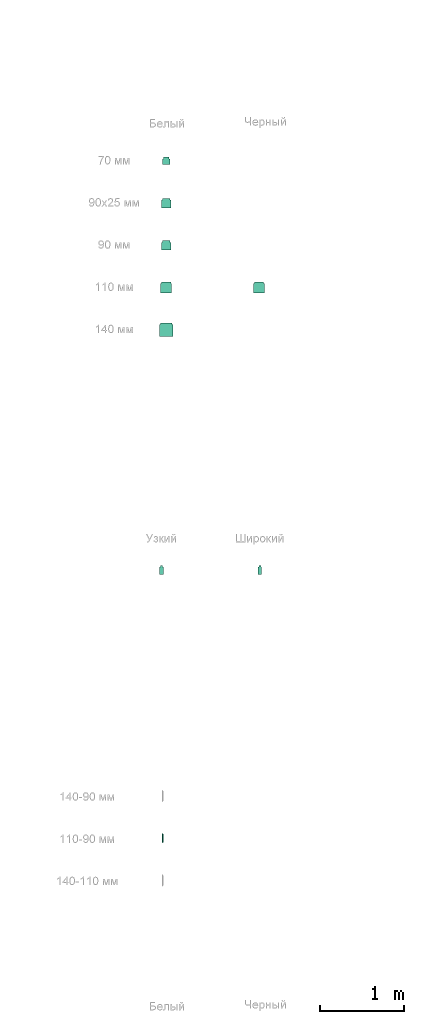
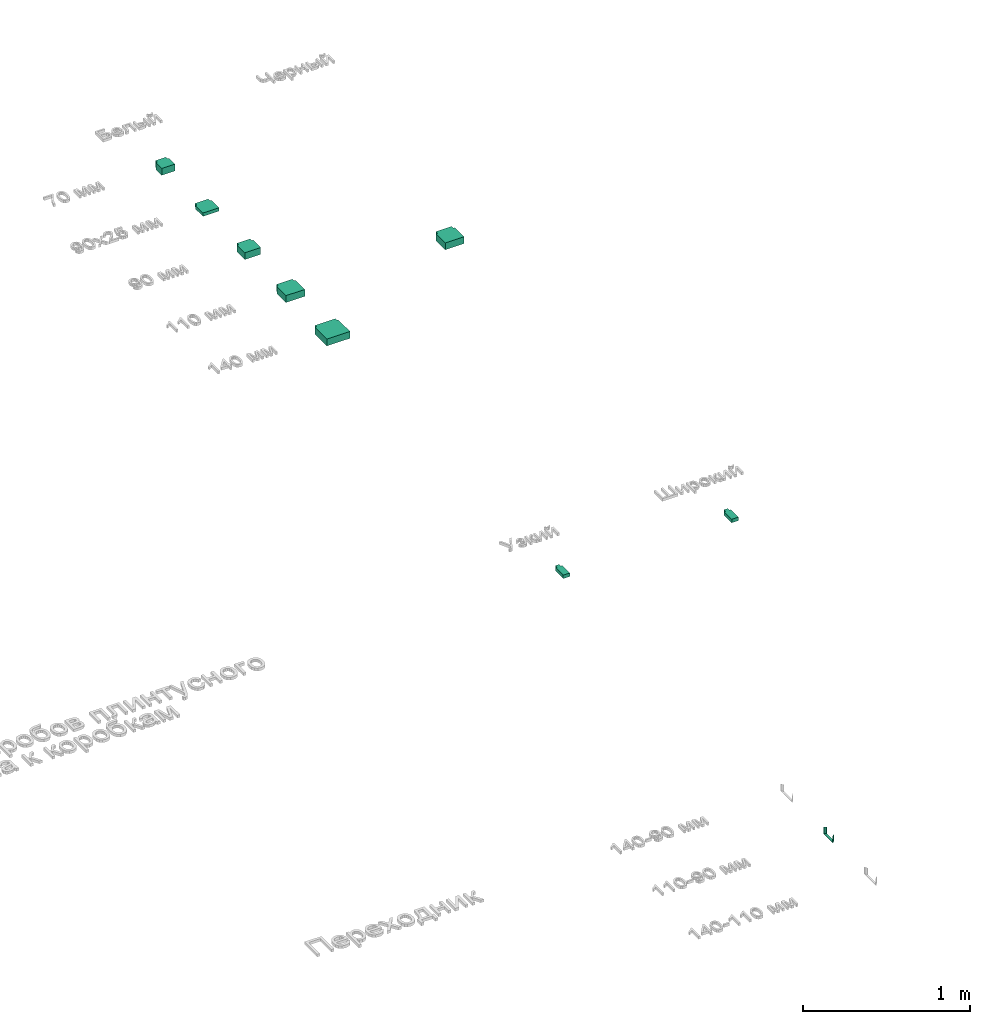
# One storey, part 17 of 87: 9 flow fittings.
"""IFC2X3 building model written with IfcOpenShell, lengths in millimetres."""

import ifcopenshell
import ifcopenshell.guid

model = None  # the IFC model being written
_history = None  # IfcOwnerHistory: only IFC2X3 demands one
_inside = {}  # id of a spatial element -> (the spatial element, [elements in it])
_under = {}  # id of a project, library or spatial element -> (it, [spatial elements below it])
_declared = {}  # id of a project -> (the project, [libraries it declares])
_typed = {}  # id of a type object -> (the type object, [elements of that type])
_made_of = {}  # id of a material, layer set ... -> (it, [elements and type objects made of it])


def new_model(schema):
    """Start an empty IFC model of exactly this schema.

    Asked for "IFC4X3", IfcOpenShell would pick the latest addendum, in which some entities
    have other attributes; the version numbers below select the first issue.
    IFC2X3 requires an IfcOwnerHistory on every rooted entity: one is made here for all.
    """
    global model, _history
    if schema == "IFC4X3":
        model = ifcopenshell.file(schema_version=(4, 3, 0, 0))
    else:
        model = ifcopenshell.file(schema=schema)
    _inside.clear()
    _under.clear()
    _declared.clear()
    _typed.clear()
    _made_of.clear()
    _history = None
    if model.schema == "IFC2X3":
        org = make("IfcOrganization", Name="unknown")
        user = make(
            "IfcPersonAndOrganization",
            ThePerson=make("IfcPerson", FamilyName="unknown"),
            TheOrganization=org,
        )
        app = make(
            "IfcApplication",
            ApplicationDeveloper=org,
            Version="unknown",
            ApplicationFullName="unknown",
            ApplicationIdentifier="unknown",
        )
        _history = make(
            "IfcOwnerHistory",
            OwningUser=user,
            OwningApplication=app,
            ChangeAction="ADDED",
            CreationDate=0,
        )
    return model


def make(cls, **values):
    """One entity of the class cls with the attributes given. An attribute that is None is left unset."""
    return model.create_entity(
        cls, **{name: value for name, value in values.items() if value is not None}
    )


def entity(cls, *values):
    """Any entity or typed value of the class cls, its attributes in the order of the schema. None: left unset."""
    e = model.create_entity(cls)
    for i, value in enumerate(values):
        if value is not None:
            e[i] = value
    return e


def rooted(cls, **values):
    """An entity with a GlobalId (a new one), such as an element, a storey or a relation."""
    return make(cls, GlobalId=ifcopenshell.guid.new(), OwnerHistory=_history, **values)


def si_unit(unit_type, name, prefix=None):
    """IfcSIUnit, for example si_unit("LENGTHUNIT", "METRE", prefix="MILLI")."""
    return make("IfcSIUnit", UnitType=unit_type, Prefix=prefix, Name=name)


def converted_unit(unit_type, name, factor, base, dimensions=None, offset=None):
    """IfcConversionBasedUnit, such as the inch: factor (a typed value) times the base unit."""
    return make(
        "IfcConversionBasedUnit"
        if offset is None
        else "IfcConversionBasedUnitWithOffset",
        ConversionOffset=offset,
        Dimensions=None
        if dimensions is None
        else entity("IfcDimensionalExponents", *dimensions),
        UnitType=unit_type,
        Name=name,
        ConversionFactor=make(
            "IfcMeasureWithUnit", ValueComponent=factor, UnitComponent=base
        ),
    )


def derived_unit(unit_type, elements):
    """IfcDerivedUnit: a product of units, each with its exponent."""
    return make(
        "IfcDerivedUnit",
        Elements=[
            make("IfcDerivedUnitElement", Unit=unit, Exponent=power)
            for unit, power in elements
        ],
        UnitType=unit_type,
    )


def assignment(units):
    """IfcUnitAssignment: the units of a project."""
    return None if units is None else make("IfcUnitAssignment", Units=units)


def point(xyz):
    """IfcCartesianPoint."""
    return None if xyz is None else make("IfcCartesianPoint", Coordinates=xyz)


def direction(xyz):
    """IfcDirection."""
    return None if xyz is None else make("IfcDirection", DirectionRatios=xyz)


def frame(location, z_axis=None, x_axis=None):
    """IfcAxis2Placement3D, a coordinate frame: its origin and axes. An axis left out is left unset."""
    return make(
        "IfcAxis2Placement3D",
        Location=point(location),
        Axis=direction(z_axis),
        RefDirection=direction(x_axis),
    )


def origin():
    """The frame at (0, 0, 0) with its axes left unset."""
    return frame((0.0, 0.0, 0.0))


def place(relative_to, where):
    """IfcLocalPlacement: puts the frame where relative to a parent placement (None: the world)."""
    return make(
        "IfcLocalPlacement", PlacementRelTo=relative_to, RelativePlacement=where
    )


def context(
    kind, dimensions, precision=None, world=None, true_north=None, identifier=None
):
    """IfcGeometricRepresentationContext, for example the 3D "Model" context."""
    return make(
        "IfcGeometricRepresentationContext",
        ContextIdentifier=identifier,
        ContextType=kind,
        CoordinateSpaceDimension=dimensions,
        Precision=precision,
        WorldCoordinateSystem=world,
        TrueNorth=true_north,
    )


def subcontext(parent, identifier, kind, view, scale=None):
    """IfcGeometricRepresentationSubContext, for example "Body" below "Model"."""
    return make(
        "IfcGeometricRepresentationSubContext",
        ContextIdentifier=identifier,
        ContextType=kind,
        ParentContext=parent,
        TargetScale=scale,
        TargetView=view,
    )


def project(units=None, contexts=None):
    """IfcProject with its units and contexts."""
    return rooted(
        "IfcProject",
        Name="project",
        RepresentationContexts=contexts,
        UnitsInContext=assignment(units),
    )


def spatial(cls, under=None, at=None, **own):
    """A site, building, storey or space (cls), placed at a placement, below another one or the project."""
    s = rooted(cls, ObjectPlacement=at, **own)
    if under is not None:
        _under.setdefault(under.id(), (under, []))[1].append(s)
    return s


def faces_of(points, faces, orient=None, outer=None):
    """IfcFace entities. A face is a list of loops; a loop is a list of indices into points, from 0.

    orient and outer hold one flag for each loop. By default every Orientation is true, the
    first loop of a face is its IfcFaceOuterBound and the others are IfcFaceBound.
    """
    made = []
    for i, loops in enumerate(faces):
        bounds = []
        for j, loop in enumerate(loops):
            is_outer = j == 0 if outer is None else outer[i][j]
            bounds.append(
                make(
                    "IfcFaceOuterBound" if is_outer else "IfcFaceBound",
                    Bound=make("IfcPolyLoop", Polygon=[points[k] for k in loop]),
                    Orientation=True if orient is None else orient[i][j],
                )
            )
        made.append(make("IfcFace", Bounds=bounds))
    return made


def faceted_brep(points, faces, orient=None, outer=None, voids=None):
    """IfcFacetedBrep: a solid bounded by flat faces; with voids (closed shells), ...WithVoids."""
    shared = [point(p) for p in points]
    hull = make("IfcClosedShell", CfsFaces=faces_of(shared, faces, orient, outer))
    if voids is None:
        return make("IfcFacetedBrep", Outer=hull)
    return make(
        "IfcFacetedBrepWithVoids",
        Outer=hull,
        Voids=[
            make(cls, CfsFaces=faces_of(shared, fs, o, b)) for cls, fs, o, b in voids
        ],
    )


def shape(context_of_items, identifier, shape_type, items):
    """IfcShapeRepresentation: the items that make up one representation, for example the "Body"."""
    return make(
        "IfcShapeRepresentation",
        ContextOfItems=context_of_items,
        RepresentationIdentifier=identifier,
        RepresentationType=shape_type,
        Items=items,
    )


def source(mapping_origin, context_of_items, identifier, shape_type, items):
    """IfcRepresentationMap: a shape defined once, which mapped items show again and again."""
    return make(
        "IfcRepresentationMap",
        MappingOrigin=mapping_origin,
        MappedRepresentation=shape(context_of_items, identifier, shape_type, items),
    )


def transform(
    local_origin,
    x_axis=None,
    y_axis=None,
    z_axis=None,
    scale=None,
    scale2=None,
    scale3=None,
    uniform=True,
):
    """IfcCartesianTransformationOperator3D, or its non-uniform kind. x_axis, y_axis, z_axis: its Axis1, 2, 3."""
    if uniform:
        return make(
            "IfcCartesianTransformationOperator3D",
            Axis1=direction(x_axis),
            Axis2=direction(y_axis),
            LocalOrigin=point(local_origin),
            Scale=scale,
            Axis3=direction(z_axis),
        )
    return make(
        "IfcCartesianTransformationOperator3DnonUniform",
        Axis1=direction(x_axis),
        Axis2=direction(y_axis),
        LocalOrigin=point(local_origin),
        Scale=scale,
        Axis3=direction(z_axis),
        Scale2=scale2,
        Scale3=scale3,
    )


def mapped(mapping_source, mapping_target):
    """IfcMappedItem: shows the shape of a source again, moved by a transform."""
    return make(
        "IfcMappedItem", MappingSource=mapping_source, MappingTarget=mapping_target
    )


def material(Name=None, Category=None):
    """IfcMaterial."""
    return make("IfcMaterial", Name=Name, Category=Category)


def made_of(thing, what):
    """Note that an element or type object is made of a material, layer set ...; save() writes the relation."""
    if what is not None:
        _made_of.setdefault(what.id(), (what, []))[1].append(thing)
    return thing


def type_object(cls, material=None, **own):
    """A type object (cls), such as IfcWallType, which elements share."""
    return made_of(rooted(cls, **own), material)


def type_shapes(of_type, sources):
    """Give a type object the sources (RepresentationMaps) that its elements show as mapped items."""
    of_type.RepresentationMaps = sources


def element(
    cls,
    number,
    at=None,
    inside=None,
    cuts=None,
    type_object=None,
    material=None,
    context=None,
    identifier="Body",
    shape_type=None,
    held_by="IfcProductDefinitionShape",
    body=None,
    shapes=None,
    **own,
):
    """One element of the class cls, such as IfcWall. Its Tag is "e" and its number.

    at: its placement. inside: the storey or other place that contains it. cuts: it is an
    opening in that element (IfcRelVoidsElement). A single representation is given by context,
    identifier, shape_type and body (its items); several are given by shapes. held_by: the class
    of the entity that holds the representations. save() writes the other relations.
    """
    e = rooted(cls, Tag="e%d" % number, ObjectPlacement=at, **own)
    if body is not None:
        shapes = [shape(context, identifier, shape_type, body)]
    if shapes is not None:
        e.Representation = make(held_by, Representations=shapes)
    if inside is not None:
        _inside.setdefault(inside.id(), (inside, []))[1].append(e)
    if cuts is not None:
        rooted(
            "IfcRelVoidsElement", RelatingBuildingElement=cuts, RelatedOpeningElement=e
        )
    if type_object is not None:
        _typed.setdefault(type_object.id(), (type_object, []))[1].append(e)
    return made_of(e, material)


def aggregate(whole, parts):
    """IfcRelAggregates: a whole, such as a stair, and the parts it consists of."""
    return rooted("IfcRelAggregates", RelatingObject=whole, RelatedObjects=parts)


def save(model, path):
    """Write the relations noted so far, then the file.

    IfcRelAggregates (storeys below a building ...), IfcRelContainedInSpatialStructure (elements
    in a storey), IfcRelDefinesByType, IfcRelAssociatesMaterial and IfcRelDeclares: one each for
    every whole, place, type object, material and project.
    """
    for whole, parts in _under.values():
        aggregate(whole, parts)
    for where, things in _inside.values():
        rooted(
            "IfcRelContainedInSpatialStructure",
            RelatedElements=things,
            RelatingStructure=where,
        )
    for kind, things in _typed.values():
        rooted("IfcRelDefinesByType", RelatedObjects=things, RelatingType=kind)
    for what, things in _made_of.values():
        rooted("IfcRelAssociatesMaterial", RelatedObjects=things, RelatingMaterial=what)
    for by, libraries in _declared.values():
        rooted("IfcRelDeclares", RelatingContext=by, RelatedDefinitions=libraries)
    model.write(path)


model = new_model("IFC2X3")

# Units and contexts
model_context = context("Model", 3, precision=0.01, world=origin(), true_north=direction((6.12303176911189e-17, 1.0)))
body_context = subcontext(model_context, "Body", "Model", "MODEL_VIEW")
ifc_project = project(units=[si_unit("LENGTHUNIT", "METRE", prefix="MILLI"), si_unit("AREAUNIT", "SQUARE_METRE"), si_unit("VOLUMEUNIT", "CUBIC_METRE"), converted_unit("PLANEANGLEUNIT", "DEGREE", entity("IfcRatioMeasure", 0.0174532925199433), si_unit("PLANEANGLEUNIT", "RADIAN"), dimensions=[0, 0, 0, 0, 0, 0, 0]), si_unit("MASSUNIT", "GRAM", prefix="KILO"), derived_unit("MASSDENSITYUNIT", [(si_unit("MASSUNIT", "GRAM", prefix="KILO"), 1), (si_unit("LENGTHUNIT", "METRE"), -3)]), si_unit("TIMEUNIT", "SECOND"), si_unit("FREQUENCYUNIT", "HERTZ"), si_unit("THERMODYNAMICTEMPERATUREUNIT", "DEGREE_CELSIUS"), derived_unit("THERMALTRANSMITTANCEUNIT", [(si_unit("MASSUNIT", "GRAM", prefix="KILO"), 1), (si_unit("THERMODYNAMICTEMPERATUREUNIT", "KELVIN"), -1), (si_unit("TIMEUNIT", "SECOND"), -3)]), derived_unit("VOLUMETRICFLOWRATEUNIT", [(si_unit("LENGTHUNIT", "METRE"), 3), (si_unit("TIMEUNIT", "SECOND"), -1)]), si_unit("ELECTRICCURRENTUNIT", "AMPERE"), si_unit("ELECTRICVOLTAGEUNIT", "VOLT"), si_unit("POWERUNIT", "WATT"), si_unit("FORCEUNIT", "NEWTON", prefix="KILO"), si_unit("ILLUMINANCEUNIT", "LUX"), si_unit("LUMINOUSFLUXUNIT", "LUMEN"), si_unit("LUMINOUSINTENSITYUNIT", "CANDELA"), derived_unit("USERDEFINED", [(si_unit("MASSUNIT", "GRAM", prefix="KILO"), -1), (si_unit("LENGTHUNIT", "METRE"), -2), (si_unit("TIMEUNIT", "SECOND"), 3), (si_unit("LUMINOUSFLUXUNIT", "LUMEN"), 1)]), derived_unit("LINEARVELOCITYUNIT", [(si_unit("LENGTHUNIT", "METRE"), 1), (si_unit("TIMEUNIT", "SECOND"), -1)]), si_unit("PRESSUREUNIT", "PASCAL"), derived_unit("USERDEFINED", [(si_unit("LENGTHUNIT", "METRE"), -2), (si_unit("MASSUNIT", "GRAM", prefix="KILO"), 1), (si_unit("TIMEUNIT", "SECOND"), -2)])], contexts=[model_context])

# Site, building, storey
site_placement = place(None, origin())
site = spatial("IfcSite", under=ifc_project, at=site_placement, Name="Default", CompositionType="ELEMENT")
building_placement = place(site_placement, origin())
building = spatial("IfcBuilding", under=site, at=building_placement, Name="Наименование здания", CompositionType="ELEMENT")
storey_placement = place(building_placement, origin())
storey = spatial("IfcBuildingStorey", under=building, at=storey_placement, Name="Этаж 01", CompositionType="ELEMENT", Elevation=0.0)

# Flow fittings
ifc_material_1 = material(Name="DKC_Пластик_Белый")
cable_carrier_fitting_type_1 = type_object("IfcCableCarrierFittingType", Name="Белый", PredefinedType="NOTDEFINED", material=ifc_material_1)
shared_shape_1 = source(origin(), body_context, "Body", "Brep", [
    faceted_brep([(-35.0, 35.0, 25.0), (-45.0, 35.0, 25.0), (-45.0, -35.0, 25.0), (45.0, -35.0, 25.0), (45.0, 35.0, 25.0), (35.0, 35.0, 25.0), (35.0, 55.0, 25.0), (-35.0, 55.0, 25.0), (-35.0, 35.0, -25.0), (-35.0, 55.0, -25.0), (35.0, 55.0, -25.0), (35.0, 35.0, -25.0), (45.0, 35.0, -25.0), (45.0, -35.0, -25.0), (-45.0, -35.0, -25.0), (-45.0, 35.0, -25.0)], [[[0, 1, 2, 3, 4, 5, 6, 7]], [[8, 9, 10, 11, 12, 13, 14, 15]], [[1, 0, 8, 15]], [[2, 1, 15, 14]], [[3, 2, 14, 13]], [[4, 3, 13, 12]], [[5, 4, 12, 11]], [[6, 5, 11, 10]], [[7, 6, 10, 9]], [[0, 7, 9, 8]]]),
    faceted_brep([(45.0, -32.4600000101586, -22.4600000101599), (45.0, 32.4600000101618, -22.4600000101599), (32.4600000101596, 32.4600000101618, -22.4600000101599), (32.4600000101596, 55.0, -22.4600000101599), (-32.4600000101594, 55.0, -22.4600000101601), (-32.4600000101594, 32.4600000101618, -22.4600000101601), (-45.0, 32.4600000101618, -22.4600000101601), (-45.0, -32.4600000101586, -22.4600000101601), (45.0, -35.0, -25.0), (-45.0, -35.0, -25.0), (-45.0, 35.0, -25.0), (-35.0, 35.0, -25.0), (-35.0, 55.0, -25.0), (35.0, 55.0, -25.0), (35.0, 35.0, -25.0), (45.0, 35.0, -25.0), (45.0, 35.0, 25.0), (45.0, 32.4600000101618, 25.0), (45.0, -32.4600000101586, 25.0), (45.0, -35.0, 25.0), (34.9600000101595, 35.0, 25.0), (35.0, 35.0, 25.0), (34.9600000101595, 55.0, 25.0), (-34.9600000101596, 55.0, 25.0), (-32.4600000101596, 55.0, 25.0), (32.4600000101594, 55.0, 25.0), (-35.0, 55.0, 25.0), (-34.9600000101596, 35.0, 25.0), (-45.0, 35.0, 25.0), (-45.0, -35.0, 25.0), (-45.0, -32.4600000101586, 25.0), (-45.0, 32.4600000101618, 25.0), (-32.4600000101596, 32.4600000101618, 25.0), (32.4600000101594, 32.4600000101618, 25.0)], [[[0, 1, 2, 3, 4, 5, 6, 7]], [[8, 9, 10, 11, 12, 13, 14, 15]], [[8, 15, 16, 17, 1, 0, 18, 19]], [[16, 15, 14, 20]], [[21, 14, 13, 22]], [[22, 13, 12, 23, 24, 4, 3, 25]], [[26, 12, 11, 27]], [[27, 11, 10, 28]], [[28, 10, 9, 29, 30, 7, 6, 31]], [[29, 9, 8, 19]], [[29, 19, 18, 30]], [[32, 31, 6, 5]], [[24, 32, 5, 4]], [[33, 25, 3, 2]], [[17, 33, 2, 1]], [[30, 18, 0, 7]], [[20, 22, 25, 33, 17, 16]], [[27, 28, 31, 32, 24, 23]]]),
])
type_shapes(cable_carrier_fitting_type_1, [shared_shape_1])
flow_fitting_1_placement = place(storey_placement, frame((13005.7301903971, -21636.7435087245, 0.0)))
element("IfcFlowFitting", 1, at=flow_fitting_1_placement, inside=storey, type_object=cable_carrier_fitting_type_1, material=ifc_material_1, Name="КНС_Тройник_ILF_DKC:Белый", ObjectType="Белый", context=body_context, shape_type="MappedRepresentation", body=[
    mapped(shared_shape_1, transform((0.0, 0.0, 0.0), scale=1.0)),
])
cable_carrier_fitting_type_2 = type_object("IfcCableCarrierFittingType", Name="Отвод узкий к коробкам", PredefinedType="NOTDEFINED", material=ifc_material_1)
shared_shape_2 = source(origin(), body_context, "Body", "Brep", [
    faceted_brep([(-12.4999999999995, 45.0, 12.5), (-22.4999999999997, 45.0, 12.5), (-22.4999999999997, -45.0, 12.5), (22.5, -45.0, 12.5), (22.5, 45.0, 12.5), (12.4999999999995, 45.0, 12.5), (12.4999999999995, 65.0, 12.5), (-12.4999999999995, 65.0, 12.5), (-12.4999999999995, 45.0, -12.5), (-12.4999999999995, 65.0, -12.5), (12.4999999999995, 65.0, -12.5), (12.4999999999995, 45.0, -12.5), (22.5, 45.0, -12.5), (22.5, -45.0, -12.5), (-22.4999999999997, -45.0, -12.5), (-22.4999999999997, 45.0, -12.5)], [[[0, 1, 2, 3, 4, 5, 6, 7]], [[8, 9, 10, 11, 12, 13, 14, 15]], [[1, 0, 8, 15]], [[2, 1, 15, 14]], [[3, 2, 14, 13]], [[4, 3, 13, 12]], [[5, 4, 12, 11]], [[6, 5, 11, 10]], [[7, 6, 10, 9]], [[0, 7, 9, 8]]]),
    faceted_brep([(22.5000000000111, -42.4999999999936, -10.0), (22.5000000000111, 42.5000000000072, -10.0), (10.0, 42.5000000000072, -10.0), (10.0, 65.0, -10.0), (-10.0, 65.0, -10.0), (-10.0, 42.500000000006, -10.0), (-22.4999999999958, 42.500000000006, -10.0), (-22.4999999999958, -42.4999999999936, -10.0), (22.5000000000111, -45.0, -12.4999999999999), (-22.4999999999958, -45.0, -12.5000000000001), (-22.4999999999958, 45.0, -12.5000000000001), (-12.4999999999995, 45.0, -12.5), (-12.4999999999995, 65.0, -12.5), (12.4999999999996, 65.0, -12.5), (12.4999999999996, 45.0, -12.5), (22.5000000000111, 45.0, -12.4999999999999), (22.5000000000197, 45.0, 12.5000000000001), (22.5000000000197, 42.5000000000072, 12.5000000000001), (22.5000000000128, -42.4999999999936, 12.5000000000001), (22.5000000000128, -45.0, 12.5000000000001), (12.4999999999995, 45.0, 12.5), (12.5000000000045, 65.0, 12.5), (-12.4999999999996, 65.0, 12.5), (-10.0, 65.0, 12.5), (10.0, 65.0, 12.5), (-12.4999999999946, 45.0, 12.5), (-22.4999999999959, 45.0, 12.4999999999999), (-22.5000000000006, -45.0, 12.4999999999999), (-22.5000000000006, -42.4999999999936, 12.4999999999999), (-22.4999999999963, 42.500000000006, 12.4999999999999), (-10.0, 42.500000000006, 12.5), (10.0, 42.5000000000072, 12.5)], [[[0, 1, 2, 3, 4, 5, 6, 7]], [[8, 9, 10, 11, 12, 13, 14, 15]], [[8, 15, 16, 17, 1, 0, 18, 19]], [[16, 15, 14, 20]], [[20, 14, 13, 21]], [[21, 13, 12, 22, 23, 4, 3, 24]], [[22, 12, 11, 25]], [[25, 11, 10, 26]], [[26, 10, 9, 27, 28, 7, 6, 29]], [[27, 9, 8, 19]], [[27, 19, 18, 28]], [[30, 29, 6, 5]], [[23, 30, 5, 4]], [[31, 24, 3, 2]], [[17, 31, 2, 1]], [[28, 18, 0, 7]], [[20, 21, 24, 31, 17, 16]], [[25, 26, 29, 30, 23, 22]]]),
])
type_shapes(cable_carrier_fitting_type_2, [shared_shape_2])
flow_fitting_2_placement = place(storey_placement, frame((12951.119028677, -26484.2361119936, 0.0)))
element("IfcFlowFitting", 2, at=flow_fitting_2_placement, inside=storey, type_object=cable_carrier_fitting_type_2, material=ifc_material_1, Name="КНС_ОтводОтКоробовПлинтусногоТипаККоробкам_ILF_DKC:Отвод узкий к коробкам", ObjectType="Отвод узкий к коробкам", context=body_context, shape_type="MappedRepresentation", body=[
    mapped(shared_shape_2, transform((0.0, 0.0, 0.0), scale=1.0)),
])
cable_carrier_fitting_type_3 = type_object("IfcCableCarrierFittingType", Name="Отвод широкий к коробкам", PredefinedType="NOTDEFINED", material=ifc_material_1)
shared_shape_3 = source(origin(), body_context, "Body", "Brep", [
    faceted_brep([(-12.4999999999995, 45.0, 12.5), (-22.4999999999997, 45.0, 12.5), (-22.4999999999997, -45.0, 12.5), (22.5, -45.0, 12.5), (22.5, 45.0, 12.5), (12.4999999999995, 45.0, 12.5), (12.4999999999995, 65.0, 12.5), (-12.4999999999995, 65.0, 12.5), (-12.4999999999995, 45.0, -12.5), (-12.4999999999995, 65.0, -12.5), (12.4999999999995, 65.0, -12.5), (12.4999999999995, 45.0, -12.5), (22.5, 45.0, -12.5), (22.5, -45.0, -12.5), (-22.4999999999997, -45.0, -12.5), (-22.4999999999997, 45.0, -12.5)], [[[0, 1, 2, 3, 4, 5, 6, 7]], [[8, 9, 10, 11, 12, 13, 14, 15]], [[1, 0, 8, 15]], [[2, 1, 15, 14]], [[3, 2, 14, 13]], [[4, 3, 13, 12]], [[5, 4, 12, 11]], [[6, 5, 11, 10]], [[7, 6, 10, 9]], [[0, 7, 9, 8]]]),
    faceted_brep([(22.5000000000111, -42.4999999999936, -10.0), (22.5000000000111, 42.5000000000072, -10.0), (10.0, 42.5000000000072, -10.0), (10.0, 65.0, -10.0), (-10.0, 65.0, -10.0), (-10.0, 42.500000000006, -10.0), (-22.4999999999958, 42.500000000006, -10.0), (-22.4999999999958, -42.4999999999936, -10.0), (22.5000000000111, -45.0, -12.4999999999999), (-22.4999999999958, -45.0, -12.5000000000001), (-22.4999999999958, 45.0, -12.5000000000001), (-12.4999999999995, 45.0, -12.5), (-12.4999999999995, 65.0, -12.5), (12.4999999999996, 65.0, -12.5), (12.4999999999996, 45.0, -12.5), (22.5000000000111, 45.0, -12.4999999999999), (22.5000000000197, 45.0, 12.5000000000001), (22.5000000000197, 42.5000000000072, 12.5000000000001), (22.5000000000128, -42.4999999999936, 12.5000000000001), (22.5000000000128, -45.0, 12.5000000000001), (12.4999999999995, 45.0, 12.5), (12.5000000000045, 65.0, 12.5), (-12.4999999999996, 65.0, 12.5), (-10.0, 65.0, 12.5), (10.0, 65.0, 12.5), (-12.4999999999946, 45.0, 12.5), (-22.4999999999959, 45.0, 12.4999999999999), (-22.5000000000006, -45.0, 12.4999999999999), (-22.5000000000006, -42.4999999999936, 12.4999999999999), (-22.4999999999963, 42.500000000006, 12.4999999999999), (-10.0, 42.500000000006, 12.5), (10.0, 42.5000000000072, 12.5)], [[[0, 1, 2, 3, 4, 5, 6, 7]], [[8, 9, 10, 11, 12, 13, 14, 15]], [[8, 15, 16, 17, 1, 0, 18, 19]], [[16, 15, 14, 20]], [[20, 14, 13, 21]], [[21, 13, 12, 22, 23, 4, 3, 24]], [[22, 12, 11, 25]], [[25, 11, 10, 26]], [[26, 10, 9, 27, 28, 7, 6, 29]], [[27, 9, 8, 19]], [[27, 19, 18, 28]], [[30, 29, 6, 5]], [[23, 30, 5, 4]], [[31, 24, 3, 2]], [[17, 31, 2, 1]], [[28, 18, 0, 7]], [[20, 21, 24, 31, 17, 16]], [[25, 26, 29, 30, 23, 22]]]),
])
type_shapes(cable_carrier_fitting_type_3, [shared_shape_3])
flow_fitting_3_placement = place(storey_placement, frame((14114.7629482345, -26484.2361119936, 0.0)))
element("IfcFlowFitting", 3, at=flow_fitting_3_placement, inside=storey, type_object=cable_carrier_fitting_type_3, material=ifc_material_1, Name="КНС_ОтводОтКоробовПлинтусногоТипаККоробкам_ILF_DKC:Отвод широкий к коробкам", ObjectType="Отвод широкий к коробкам", context=body_context, shape_type="MappedRepresentation", body=[
    mapped(shared_shape_3, transform((0.0, 0.0, 0.0), scale=1.0)),
])
ifc_material_2 = material(Name="DKC_Пластик_Серо-черный")
cable_carrier_fitting_type_4 = type_object("IfcCableCarrierFittingType", Name="Черный", PredefinedType="NOTDEFINED", material=ifc_material_2)
shared_shape_4 = source(origin(), body_context, "Body", "Brep", [
    faceted_brep([(-55.0, 55.0, 25.0), (-65.0, 55.0, 25.0), (-65.0, -55.0, 25.0), (65.0, -55.0, 25.0), (65.0, 55.0, 25.0), (55.0, 55.0, 25.0), (55.0, 75.0, 25.0), (-55.0, 75.0, 25.0), (-55.0, 55.0, -25.0), (-55.0, 75.0, -25.0), (55.0, 75.0, -25.0), (55.0, 55.0, -25.0), (65.0, 55.0, -25.0), (65.0, -55.0, -25.0), (-65.0, -55.0, -25.0), (-65.0, 55.0, -25.0)], [[[0, 1, 2, 3, 4, 5, 6, 7]], [[8, 9, 10, 11, 12, 13, 14, 15]], [[1, 0, 8, 15]], [[2, 1, 15, 14]], [[3, 2, 14, 13]], [[4, 3, 13, 12]], [[5, 4, 12, 11]], [[6, 5, 11, 10]], [[7, 6, 10, 9]], [[0, 7, 9, 8]]]),
    faceted_brep([(65.0, -52.4600000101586, -22.4600000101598), (65.0, 52.4600000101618, -22.4600000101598), (52.4600000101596, 52.4600000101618, -22.4600000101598), (52.4600000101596, 75.0, -22.4600000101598), (-52.4600000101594, 75.0, -22.4600000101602), (-52.4600000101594, 52.4600000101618, -22.4600000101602), (-65.0, 52.4600000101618, -22.4600000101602), (-65.0, -52.4600000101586, -22.4600000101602), (65.0, -55.0, -25.0), (-65.0, -55.0, -25.0), (-65.0, 55.0, -25.0), (-55.0, 55.0, -25.0), (-55.0, 75.0, -25.0), (55.0, 75.0, -25.0), (55.0, 55.0, -25.0), (65.0, 55.0, -25.0), (65.0, 55.0, 25.0), (65.0, 52.4600000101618, 25.0), (65.0, -52.4600000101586, 25.0), (65.0, -55.0, 25.0), (54.9600000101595, 55.0, 25.0), (55.0, 55.0, 25.0), (54.9600000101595, 75.0, 25.0), (-54.9600000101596, 75.0, 25.0), (-52.4600000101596, 75.0, 25.0), (52.4600000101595, 75.0, 25.0), (-55.0, 75.0, 25.0), (-54.9600000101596, 55.0, 25.0), (-65.0, 55.0, 25.0), (-65.0, -55.0, 25.0), (-65.0, -52.4600000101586, 25.0), (-65.0, 52.4600000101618, 25.0), (-52.4600000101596, 52.4600000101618, 25.0), (52.4600000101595, 52.4600000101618, 25.0)], [[[0, 1, 2, 3, 4, 5, 6, 7]], [[8, 9, 10, 11, 12, 13, 14, 15]], [[8, 15, 16, 17, 1, 0, 18, 19]], [[16, 15, 14, 20]], [[21, 14, 13, 22]], [[22, 13, 12, 23, 24, 4, 3, 25]], [[26, 12, 11, 27]], [[27, 11, 10, 28]], [[28, 10, 9, 29, 30, 7, 6, 31]], [[29, 9, 8, 19]], [[29, 19, 18, 30]], [[32, 31, 6, 5]], [[24, 32, 5, 4]], [[33, 25, 3, 2]], [[17, 33, 2, 1]], [[30, 18, 0, 7]], [[20, 22, 25, 33, 17, 16]], [[27, 28, 31, 32, 24, 23]]]),
])
type_shapes(cable_carrier_fitting_type_4, [shared_shape_4])
flow_fitting_4_placement = place(storey_placement, frame((14105.7301903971, -23136.7435087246, 0.0)))
element("IfcFlowFitting", 4, at=flow_fitting_4_placement, inside=storey, type_object=cable_carrier_fitting_type_4, material=ifc_material_2, Name="КНС_Тройник_ILF_DKC:Черный", ObjectType="Черный", context=body_context, shape_type="MappedRepresentation", body=[
    mapped(shared_shape_4, transform((0.0, 0.0, 0.0), scale=1.0)),
])
cable_carrier_fitting_type_5 = type_object("IfcCableCarrierFittingType", Name="Белый", PredefinedType="NOTDEFINED", material=ifc_material_1)
shared_shape_5 = source(origin(), body_context, "Body", "Brep", [
    faceted_brep([(-45.0, 45.0, 12.5), (-55.0, 45.0, 12.5), (-55.0, -45.0, 12.5), (55.0, -45.0, 12.5), (55.0, 45.0, 12.5), (45.0, 45.0, 12.5), (45.0, 65.0, 12.5), (-45.0, 65.0, 12.5), (-45.0, 45.0, -12.5), (-45.0, 65.0, -12.5), (45.0, 65.0, -12.5), (45.0, 45.0, -12.5), (55.0, 45.0, -12.5), (55.0, -45.0, -12.5), (-55.0, -45.0, -12.5), (-55.0, 45.0, -12.5)], [[[0, 1, 2, 3, 4, 5, 6, 7]], [[8, 9, 10, 11, 12, 13, 14, 15]], [[1, 0, 8, 15]], [[2, 1, 15, 14]], [[3, 2, 14, 13]], [[4, 3, 13, 12]], [[5, 4, 12, 11]], [[6, 5, 11, 10]], [[7, 6, 10, 9]], [[0, 7, 9, 8]]]),
    faceted_brep([(55.0, -42.4600000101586, -9.96000001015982), (55.0, 42.4600000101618, -9.96000001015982), (42.4600000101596, 42.4600000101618, -9.96000001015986), (42.4600000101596, 65.0, -9.96000001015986), (-42.4600000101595, 65.0, -9.96000001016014), (-42.4600000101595, 42.4600000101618, -9.96000001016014), (-55.0, 42.4600000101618, -9.96000001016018), (-55.0, -42.4600000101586, -9.96000001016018), (55.0, -45.0, -12.4999999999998), (-55.0, -45.0, -12.5000000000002), (-55.0, 45.0, -12.5000000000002), (-45.0, 45.0, -12.5000000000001), (-45.0, 65.0, -12.5000000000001), (45.0, 65.0, -12.4999999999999), (45.0, 45.0, -12.4999999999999), (55.0, 45.0, -12.4999999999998), (55.0, 45.0, 12.5000000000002), (55.0, 42.4600000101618, 12.5000000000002), (55.0, -42.4600000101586, 12.5000000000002), (55.0, -45.0, 12.5000000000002), (44.9600000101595, 45.0, 12.5000000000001), (45.0, 45.0, 12.5000000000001), (44.9600000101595, 65.0, 12.5000000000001), (-44.9600000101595, 65.0, 12.4999999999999), (-42.4600000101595, 65.0, 12.4999999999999), (42.4600000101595, 65.0, 12.5000000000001), (-45.0, 65.0, 12.4999999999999), (-44.9600000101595, 45.0, 12.4999999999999), (-55.0, 45.0, 12.4999999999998), (-55.0, -45.0, 12.4999999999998), (-55.0, -42.4600000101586, 12.4999999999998), (-55.0, 42.4600000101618, 12.4999999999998), (-42.4600000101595, 42.4600000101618, 12.4999999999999), (42.4600000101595, 42.4600000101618, 12.5000000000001)], [[[0, 1, 2, 3, 4, 5, 6, 7]], [[8, 9, 10, 11, 12, 13, 14, 15]], [[8, 15, 16, 17, 1, 0, 18, 19]], [[16, 15, 14, 20]], [[21, 14, 13, 22]], [[22, 13, 12, 23, 24, 4, 3, 25]], [[26, 12, 11, 27]], [[27, 11, 10, 28]], [[28, 10, 9, 29, 30, 7, 6, 31]], [[29, 9, 8, 19]], [[29, 19, 18, 30]], [[32, 31, 6, 5]], [[24, 32, 5, 4]], [[33, 25, 3, 2]], [[17, 33, 2, 1]], [[30, 18, 0, 7]], [[20, 22, 25, 33, 17, 16]], [[27, 28, 31, 32, 24, 23]]]),
])
type_shapes(cable_carrier_fitting_type_5, [shared_shape_5])
flow_fitting_5_placement = place(storey_placement, frame((13005.7301903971, -22136.7435087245, 0.0)))
element("IfcFlowFitting", 5, at=flow_fitting_5_placement, inside=storey, type_object=cable_carrier_fitting_type_5, material=ifc_material_1, Name="КНС_Тройник_ILF_DKC:Белый", ObjectType="Белый", context=body_context, shape_type="MappedRepresentation", body=[
    mapped(shared_shape_5, transform((0.0, 0.0, 0.0), scale=1.0)),
])
cable_carrier_fitting_type_6 = type_object("IfcCableCarrierFittingType", Name="Белый", PredefinedType="NOTDEFINED", material=ifc_material_1)
shared_shape_6 = source(origin(), body_context, "Body", "Brep", [
    faceted_brep([(-45.0, 45.0, 25.0), (-55.0, 45.0, 25.0), (-55.0, -45.0, 25.0), (55.0, -45.0, 25.0), (55.0, 45.0, 25.0), (45.0, 45.0, 25.0), (45.0, 65.0, 25.0), (-45.0, 65.0, 25.0), (-45.0, 45.0, -25.0), (-45.0, 65.0, -25.0), (45.0, 65.0, -25.0), (45.0, 45.0, -25.0), (55.0, 45.0, -25.0), (55.0, -45.0, -25.0), (-55.0, -45.0, -25.0), (-55.0, 45.0, -25.0)], [[[0, 1, 2, 3, 4, 5, 6, 7]], [[8, 9, 10, 11, 12, 13, 14, 15]], [[1, 0, 8, 15]], [[2, 1, 15, 14]], [[3, 2, 14, 13]], [[4, 3, 13, 12]], [[5, 4, 12, 11]], [[6, 5, 11, 10]], [[7, 6, 10, 9]], [[0, 7, 9, 8]]]),
    faceted_brep([(55.0, -42.4600000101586, -22.4600000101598), (55.0, 42.4600000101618, -22.4600000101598), (42.4600000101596, 42.4600000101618, -22.4600000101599), (42.4600000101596, 65.0, -22.4600000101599), (-42.4600000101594, 65.0, -22.4600000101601), (-42.4600000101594, 42.4600000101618, -22.4600000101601), (-55.0, 42.4600000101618, -22.4600000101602), (-55.0, -42.4600000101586, -22.4600000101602), (55.0, -45.0, -25.0), (-55.0, -45.0, -25.0), (-55.0, 45.0, -25.0), (-45.0, 45.0, -25.0), (-45.0, 65.0, -25.0), (45.0, 65.0, -25.0), (45.0, 45.0, -25.0), (55.0, 45.0, -25.0), (55.0, 45.0, 25.0), (55.0, 42.4600000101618, 25.0), (55.0, -42.4600000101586, 25.0), (55.0, -45.0, 25.0), (44.9600000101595, 45.0, 25.0), (45.0, 45.0, 25.0), (44.9600000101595, 65.0, 25.0), (-44.9600000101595, 65.0, 25.0), (-42.4600000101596, 65.0, 25.0), (42.4600000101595, 65.0, 25.0), (-45.0, 65.0, 25.0), (-44.9600000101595, 45.0, 25.0), (-55.0, 45.0, 25.0), (-55.0, -45.0, 25.0), (-55.0, -42.4600000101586, 25.0), (-55.0, 42.4600000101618, 25.0), (-42.4600000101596, 42.4600000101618, 25.0), (42.4600000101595, 42.4600000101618, 25.0)], [[[0, 1, 2, 3, 4, 5, 6, 7]], [[8, 9, 10, 11, 12, 13, 14, 15]], [[8, 15, 16, 17, 1, 0, 18, 19]], [[16, 15, 14, 20]], [[21, 14, 13, 22]], [[22, 13, 12, 23, 24, 4, 3, 25]], [[26, 12, 11, 27]], [[27, 11, 10, 28]], [[28, 10, 9, 29, 30, 7, 6, 31]], [[29, 9, 8, 19]], [[29, 19, 18, 30]], [[32, 31, 6, 5]], [[24, 32, 5, 4]], [[33, 25, 3, 2]], [[17, 33, 2, 1]], [[30, 18, 0, 7]], [[20, 22, 25, 33, 17, 16]], [[27, 28, 31, 32, 24, 23]]]),
])
type_shapes(cable_carrier_fitting_type_6, [shared_shape_6])
flow_fitting_6_placement = place(storey_placement, frame((13005.7301903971, -22636.7435087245, 0.0)))
element("IfcFlowFitting", 6, at=flow_fitting_6_placement, inside=storey, type_object=cable_carrier_fitting_type_6, material=ifc_material_1, Name="КНС_Тройник_ILF_DKC:Белый", ObjectType="Белый", context=body_context, shape_type="MappedRepresentation", body=[
    mapped(shared_shape_6, transform((0.0, 0.0, 0.0), scale=1.0)),
])
cable_carrier_fitting_type_7 = type_object("IfcCableCarrierFittingType", Name="Белый", PredefinedType="NOTDEFINED", material=ifc_material_1)
shared_shape_7 = source(origin(), body_context, "Body", "Brep", [
    faceted_brep([(-55.0, 55.0, 25.0), (-65.0, 55.0, 25.0), (-65.0, -55.0, 25.0), (65.0, -55.0, 25.0), (65.0, 55.0, 25.0), (55.0, 55.0, 25.0), (55.0, 75.0, 25.0), (-55.0, 75.0, 25.0), (-55.0, 55.0, -25.0), (-55.0, 75.0, -25.0), (55.0, 75.0, -25.0), (55.0, 55.0, -25.0), (65.0, 55.0, -25.0), (65.0, -55.0, -25.0), (-65.0, -55.0, -25.0), (-65.0, 55.0, -25.0)], [[[0, 1, 2, 3, 4, 5, 6, 7]], [[8, 9, 10, 11, 12, 13, 14, 15]], [[1, 0, 8, 15]], [[2, 1, 15, 14]], [[3, 2, 14, 13]], [[4, 3, 13, 12]], [[5, 4, 12, 11]], [[6, 5, 11, 10]], [[7, 6, 10, 9]], [[0, 7, 9, 8]]]),
    faceted_brep([(65.0, -52.4600000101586, -22.4600000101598), (65.0, 52.4600000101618, -22.4600000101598), (52.4600000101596, 52.4600000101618, -22.4600000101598), (52.4600000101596, 75.0, -22.4600000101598), (-52.4600000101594, 75.0, -22.4600000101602), (-52.4600000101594, 52.4600000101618, -22.4600000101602), (-65.0, 52.4600000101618, -22.4600000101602), (-65.0, -52.4600000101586, -22.4600000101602), (65.0, -55.0, -25.0), (-65.0, -55.0, -25.0), (-65.0, 55.0, -25.0), (-55.0, 55.0, -25.0), (-55.0, 75.0, -25.0), (55.0, 75.0, -25.0), (55.0, 55.0, -25.0), (65.0, 55.0, -25.0), (65.0, 55.0, 25.0), (65.0, 52.4600000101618, 25.0), (65.0, -52.4600000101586, 25.0), (65.0, -55.0, 25.0), (54.9600000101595, 55.0, 25.0), (55.0, 55.0, 25.0), (54.9600000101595, 75.0, 25.0), (-54.9600000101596, 75.0, 25.0), (-52.4600000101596, 75.0, 25.0), (52.4600000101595, 75.0, 25.0), (-55.0, 75.0, 25.0), (-54.9600000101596, 55.0, 25.0), (-65.0, 55.0, 25.0), (-65.0, -55.0, 25.0), (-65.0, -52.4600000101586, 25.0), (-65.0, 52.4600000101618, 25.0), (-52.4600000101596, 52.4600000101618, 25.0), (52.4600000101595, 52.4600000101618, 25.0)], [[[0, 1, 2, 3, 4, 5, 6, 7]], [[8, 9, 10, 11, 12, 13, 14, 15]], [[8, 15, 16, 17, 1, 0, 18, 19]], [[16, 15, 14, 20]], [[21, 14, 13, 22]], [[22, 13, 12, 23, 24, 4, 3, 25]], [[26, 12, 11, 27]], [[27, 11, 10, 28]], [[28, 10, 9, 29, 30, 7, 6, 31]], [[29, 9, 8, 19]], [[29, 19, 18, 30]], [[32, 31, 6, 5]], [[24, 32, 5, 4]], [[33, 25, 3, 2]], [[17, 33, 2, 1]], [[30, 18, 0, 7]], [[20, 22, 25, 33, 17, 16]], [[27, 28, 31, 32, 24, 23]]]),
])
type_shapes(cable_carrier_fitting_type_7, [shared_shape_7])
flow_fitting_7_placement = place(storey_placement, frame((13005.7301903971, -23136.7435087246, 0.0)))
element("IfcFlowFitting", 7, at=flow_fitting_7_placement, inside=storey, type_object=cable_carrier_fitting_type_7, material=ifc_material_1, Name="КНС_Тройник_ILF_DKC:Белый", ObjectType="Белый", context=body_context, shape_type="MappedRepresentation", body=[
    mapped(shared_shape_7, transform((0.0, 0.0, 0.0), scale=1.0)),
])
cable_carrier_fitting_type_8 = type_object("IfcCableCarrierFittingType", Name="Белый", PredefinedType="NOTDEFINED", material=ifc_material_1)
shared_shape_8 = source(origin(), body_context, "Body", "Brep", [
    faceted_brep([(-70.0, 70.0, 25.0), (-80.0, 70.0, 25.0), (-80.0, -70.0, 25.0), (80.0, -70.0, 25.0), (80.0, 70.0, 25.0), (70.0, 70.0, 25.0), (70.0, 90.0, 25.0), (-70.0, 90.0, 25.0), (-70.0, 70.0, -25.0), (-70.0, 90.0, -25.0), (70.0, 90.0, -25.0), (70.0, 70.0, -25.0), (80.0, 70.0, -25.0), (80.0, -70.0, -25.0), (-80.0, -70.0, -25.0), (-80.0, 70.0, -25.0)], [[[0, 1, 2, 3, 4, 5, 6, 7]], [[8, 9, 10, 11, 12, 13, 14, 15]], [[1, 0, 8, 15]], [[2, 1, 15, 14]], [[3, 2, 14, 13]], [[4, 3, 13, 12]], [[5, 4, 12, 11]], [[6, 5, 11, 10]], [[7, 6, 10, 9]], [[0, 7, 9, 8]]]),
    faceted_brep([(80.0, -67.4600000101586, -22.4600000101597), (80.0, 67.4600000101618, -22.4600000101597), (67.4600000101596, 67.4600000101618, -22.4600000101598), (67.4600000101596, 90.0, -22.4600000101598), (-67.4600000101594, 90.0, -22.4600000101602), (-67.4600000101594, 67.4600000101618, -22.4600000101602), (-80.0, 67.4600000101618, -22.4600000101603), (-80.0, -67.4600000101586, -22.4600000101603), (80.0, -70.0, -25.0), (-80.0, -70.0, -25.0), (-80.0, 70.0, -25.0), (-70.0, 70.0, -25.0), (-70.0, 90.0, -25.0), (70.0, 90.0, -25.0), (70.0, 70.0, -25.0), (80.0, 70.0, -25.0), (80.0, 70.0, 25.0), (80.0, 67.4600000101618, 25.0), (80.0, -67.4600000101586, 25.0), (80.0, -70.0, 25.0), (69.9600000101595, 70.0, 25.0), (70.0, 70.0, 25.0), (69.9600000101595, 90.0, 25.0), (-69.9600000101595, 90.0, 25.0), (-67.4600000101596, 90.0, 25.0), (67.4600000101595, 90.0, 25.0), (-70.0, 90.0, 25.0), (-69.9600000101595, 70.0, 25.0), (-80.0, 70.0, 25.0), (-80.0, -70.0, 25.0), (-80.0, -67.4600000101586, 25.0), (-80.0, 67.4600000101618, 25.0), (-67.4600000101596, 67.4600000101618, 25.0), (67.4600000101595, 67.4600000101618, 25.0)], [[[0, 1, 2, 3, 4, 5, 6, 7]], [[8, 9, 10, 11, 12, 13, 14, 15]], [[8, 15, 16, 17, 1, 0, 18, 19]], [[16, 15, 14, 20]], [[21, 14, 13, 22]], [[22, 13, 12, 23, 24, 4, 3, 25]], [[26, 12, 11, 27]], [[27, 11, 10, 28]], [[28, 10, 9, 29, 30, 7, 6, 31]], [[29, 9, 8, 19]], [[29, 19, 18, 30]], [[32, 31, 6, 5]], [[24, 32, 5, 4]], [[33, 25, 3, 2]], [[17, 33, 2, 1]], [[30, 18, 0, 7]], [[20, 22, 25, 33, 17, 16]], [[27, 28, 31, 32, 24, 23]]]),
])
type_shapes(cable_carrier_fitting_type_8, [shared_shape_8])
flow_fitting_8_placement = place(storey_placement, frame((13005.7301903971, -23636.7435087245, 0.0)))
element("IfcFlowFitting", 8, at=flow_fitting_8_placement, inside=storey, type_object=cable_carrier_fitting_type_8, material=ifc_material_1, Name="КНС_Тройник_ILF_DKC:Белый", ObjectType="Белый", context=body_context, shape_type="MappedRepresentation", body=[
    mapped(shared_shape_8, transform((0.0, 0.0, 0.0), scale=1.0)),
])
cable_carrier_fitting_type_9 = type_object("IfcCableCarrierFittingType", Name="Переходник_ILF_DKC", PredefinedType="NOTDEFINED")
shared_shape_9 = source(origin(), body_context, "Body", "Brep", [
    faceted_brep([(-7.49999999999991, 55.0, -25.0), (-7.50000000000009, -55.0, -25.0), (-7.50000000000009, -55.0, 25.0), (-7.50000000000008, -52.4999999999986, 25.0), (-7.50000000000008, -52.4999999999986, -22.4999999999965), (-7.49999999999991, 52.5000000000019, -22.4999999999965), (-7.49999999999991, 52.5000000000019, 25.0), (-7.49999999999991, 55.0, 25.0), (-5.0, 55.0, 25.0), (-5.0, 55.0, -25.0), (-5.0, 52.5000000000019, 25.0), (5.0, 42.4999999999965, 25.0), (7.50000000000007, 42.4999999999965, 25.0), (7.50000000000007, 45.0, 25.0), (5.0, 45.0, 25.0), (-5.0, 52.5000000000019, -22.4999999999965), (-5.0, -52.4999999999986, -22.4999999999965), (5.0, -42.5000000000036, -22.4999999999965), (7.49999999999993, -42.5000000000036, -22.4999999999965), (7.50000000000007, 42.4999999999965, -22.4999999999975), (5.0, 42.4999999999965, -22.4999999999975), (-5.0, -52.4999999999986, 25.0), (-5.0, -55.0, 25.0), (5.0, -45.0, 25.0), (7.49999999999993, -45.0, 25.0), (7.49999999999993, -42.5000000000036, 25.0), (5.0, -42.5000000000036, 25.0), (-5.0, -55.0, -25.0), (5.0, 45.0, -25.0), (7.50000000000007, 45.0, -25.0), (7.49999999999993, -45.0, -25.0), (5.0, -45.0, -25.0)], [[[0, 1, 2, 3, 4, 5, 6, 7]], [[0, 7, 8, 9]], [[7, 6, 10, 11, 12, 13, 14, 8]], [[6, 5, 15, 10]], [[5, 4, 16, 17, 18, 19, 20, 15]], [[4, 3, 21, 16]], [[3, 2, 22, 23, 24, 25, 26, 21]], [[2, 1, 27, 22]], [[1, 0, 9, 28, 29, 30, 31, 27]], [[15, 20, 11, 10]], [[17, 16, 21, 26]], [[23, 22, 27, 31]], [[28, 9, 8, 14]], [[29, 13, 12, 19, 18, 25, 24, 30]], [[30, 24, 23, 31]], [[25, 18, 17, 26]], [[19, 12, 11, 20]], [[13, 29, 28, 14]]]),
])
type_shapes(cable_carrier_fitting_type_9, [shared_shape_9])
flow_fitting_9_placement = place(storey_placement, frame((12963.6576347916, -29651.0390094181, 0.0)))
element("IfcFlowFitting", 9, at=flow_fitting_9_placement, inside=storey, type_object=cable_carrier_fitting_type_9, Name="КНС_Переходник_ILF_DKC:Переходник_ILF_DKC", ObjectType="Переходник_ILF_DKC", context=body_context, shape_type="MappedRepresentation", body=[
    mapped(shared_shape_9, transform((0.0, 0.0, 0.0), scale=1.0)),
])

save(model, "model.ifc")
